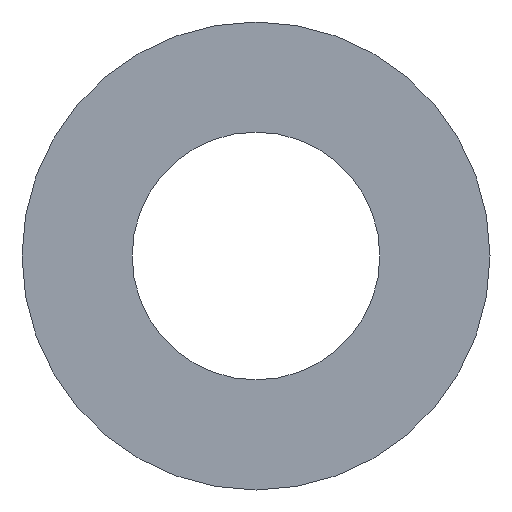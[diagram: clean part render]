
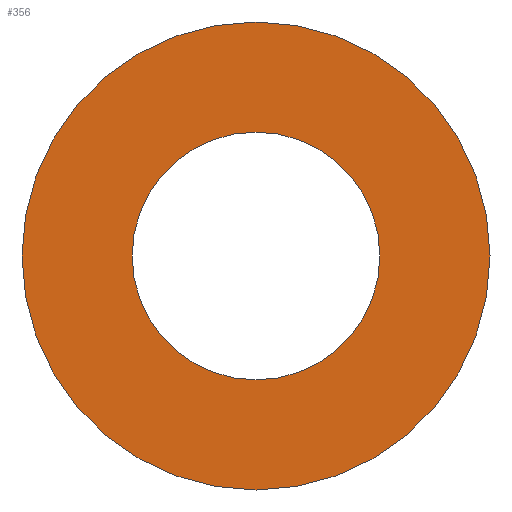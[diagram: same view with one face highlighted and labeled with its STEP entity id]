
A CAD part, front view. The second image highlights one B-rep face of the part: STEP entity #356.
In plain terms, the highlighted planar face has unit normal (0, -1, 0).
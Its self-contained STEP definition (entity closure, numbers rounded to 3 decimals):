
#22 = VERTEX_POINT('',#23);
#23 = CARTESIAN_POINT('',(0.,-0.5,1.35));
#32 = CYLINDRICAL_SURFACE('',#33,1.35);
#33 = AXIS2_PLACEMENT_3D('',#34,#35,#36);
#34 = CARTESIAN_POINT('',(0.,-0.6,0.));
#35 = DIRECTION('',(0.,1.,0.));
#36 = DIRECTION('',(0.,-0.,1.));
#44 = CYLINDRICAL_SURFACE('',#45,1.35);
#45 = AXIS2_PLACEMENT_3D('',#46,#47,#48);
#46 = CARTESIAN_POINT('',(0.,-0.6,0.));
#47 = DIRECTION('',(0.,1.,0.));
#48 = DIRECTION('',(0.,-0.,1.));
#90 = VERTEX_POINT('',#91);
#91 = CARTESIAN_POINT('',(0.,-0.5,-1.35));
#112 = EDGE_CURVE('',#90,#22,#113,.T.);
#113 = SURFACE_CURVE('',#114,(#119,#126),.PCURVE_S1.);
#114 = CIRCLE('',#115,1.35);
#115 = AXIS2_PLACEMENT_3D('',#116,#117,#118);
#116 = CARTESIAN_POINT('',(0.,-0.5,0.));
#117 = DIRECTION('',(0.,1.,0.));
#118 = DIRECTION('',(0.,-0.,1.));
#119 = PCURVE('',#32,#120);
#120 = DEFINITIONAL_REPRESENTATION('',(#121),#125);
#121 = LINE('',#122,#123);
#122 = CARTESIAN_POINT('',(0.,0.1));
#123 = VECTOR('',#124,1.);
#124 = DIRECTION('',(1.,0.));
#125 = ( GEOMETRIC_REPRESENTATION_CONTEXT(2) 
PARAMETRIC_REPRESENTATION_CONTEXT() REPRESENTATION_CONTEXT('2D SPACE',''
  ) );
#126 = PCURVE('',#127,#132);
#127 = PLANE('',#128);
#128 = AXIS2_PLACEMENT_3D('',#129,#130,#131);
#129 = CARTESIAN_POINT('',(0.,-0.5,0.));
#130 = DIRECTION('',(0.,1.,0.));
#131 = DIRECTION('',(0.,-0.,1.));
#132 = DEFINITIONAL_REPRESENTATION('',(#133),#137);
#133 = CIRCLE('',#134,1.35);
#134 = AXIS2_PLACEMENT_2D('',#135,#136);
#135 = CARTESIAN_POINT('',(0.,0.));
#136 = DIRECTION('',(1.,0.));
#137 = ( GEOMETRIC_REPRESENTATION_CONTEXT(2) 
PARAMETRIC_REPRESENTATION_CONTEXT() REPRESENTATION_CONTEXT('2D SPACE',''
  ) );
#142 = EDGE_CURVE('',#143,#145,#147,.T.);
#143 = VERTEX_POINT('',#144);
#144 = CARTESIAN_POINT('',(0.,-0.5,2.55));
#145 = VERTEX_POINT('',#146);
#146 = CARTESIAN_POINT('',(0.,-0.5,-2.55));
#147 = SURFACE_CURVE('',#148,(#153,#165),.PCURVE_S1.);
#148 = CIRCLE('',#149,2.55);
#149 = AXIS2_PLACEMENT_3D('',#150,#151,#152);
#150 = CARTESIAN_POINT('',(0.,-0.5,0.));
#151 = DIRECTION('',(0.,1.,0.));
#152 = DIRECTION('',(0.,-0.,1.));
#153 = PCURVE('',#154,#159);
#154 = CYLINDRICAL_SURFACE('',#155,2.55);
#155 = AXIS2_PLACEMENT_3D('',#156,#157,#158);
#156 = CARTESIAN_POINT('',(0.,-0.5,0.));
#157 = DIRECTION('',(0.,1.,0.));
#158 = DIRECTION('',(0.,-0.,1.));
#159 = DEFINITIONAL_REPRESENTATION('',(#160),#164);
#160 = LINE('',#161,#162);
#161 = CARTESIAN_POINT('',(0.,0.));
#162 = VECTOR('',#163,1.);
#163 = DIRECTION('',(1.,0.));
#164 = ( GEOMETRIC_REPRESENTATION_CONTEXT(2) 
PARAMETRIC_REPRESENTATION_CONTEXT() REPRESENTATION_CONTEXT('2D SPACE',''
  ) );
#165 = PCURVE('',#127,#166);
#166 = DEFINITIONAL_REPRESENTATION('',(#167),#171);
#167 = CIRCLE('',#168,2.55);
#168 = AXIS2_PLACEMENT_2D('',#169,#170);
#169 = CARTESIAN_POINT('',(0.,0.));
#170 = DIRECTION('',(1.,0.));
#171 = ( GEOMETRIC_REPRESENTATION_CONTEXT(2) 
PARAMETRIC_REPRESENTATION_CONTEXT() REPRESENTATION_CONTEXT('2D SPACE',''
  ) );
#189 = CYLINDRICAL_SURFACE('',#190,2.55);
#190 = AXIS2_PLACEMENT_3D('',#191,#192,#193);
#191 = CARTESIAN_POINT('',(0.,-0.5,0.));
#192 = DIRECTION('',(0.,1.,0.));
#193 = DIRECTION('',(0.,-0.,1.));
#306 = EDGE_CURVE('',#22,#90,#307,.T.);
#307 = SURFACE_CURVE('',#308,(#313,#320),.PCURVE_S1.);
#308 = CIRCLE('',#309,1.35);
#309 = AXIS2_PLACEMENT_3D('',#310,#311,#312);
#310 = CARTESIAN_POINT('',(0.,-0.5,0.));
#311 = DIRECTION('',(0.,1.,0.));
#312 = DIRECTION('',(0.,-0.,1.));
#313 = PCURVE('',#44,#314);
#314 = DEFINITIONAL_REPRESENTATION('',(#315),#319);
#315 = LINE('',#316,#317);
#316 = CARTESIAN_POINT('',(0.,0.1));
#317 = VECTOR('',#318,1.);
#318 = DIRECTION('',(1.,0.));
#319 = ( GEOMETRIC_REPRESENTATION_CONTEXT(2) 
PARAMETRIC_REPRESENTATION_CONTEXT() REPRESENTATION_CONTEXT('2D SPACE',''
  ) );
#320 = PCURVE('',#127,#321);
#321 = DEFINITIONAL_REPRESENTATION('',(#322),#326);
#322 = CIRCLE('',#323,1.35);
#323 = AXIS2_PLACEMENT_2D('',#324,#325);
#324 = CARTESIAN_POINT('',(0.,0.));
#325 = DIRECTION('',(1.,0.));
#326 = ( GEOMETRIC_REPRESENTATION_CONTEXT(2) 
PARAMETRIC_REPRESENTATION_CONTEXT() REPRESENTATION_CONTEXT('2D SPACE',''
  ) );
#333 = EDGE_CURVE('',#145,#143,#334,.T.);
#334 = SURFACE_CURVE('',#335,(#340,#347),.PCURVE_S1.);
#335 = CIRCLE('',#336,2.55);
#336 = AXIS2_PLACEMENT_3D('',#337,#338,#339);
#337 = CARTESIAN_POINT('',(0.,-0.5,0.));
#338 = DIRECTION('',(0.,1.,0.));
#339 = DIRECTION('',(0.,-0.,1.));
#340 = PCURVE('',#189,#341);
#341 = DEFINITIONAL_REPRESENTATION('',(#342),#346);
#342 = LINE('',#343,#344);
#343 = CARTESIAN_POINT('',(0.,0.));
#344 = VECTOR('',#345,1.);
#345 = DIRECTION('',(1.,0.));
#346 = ( GEOMETRIC_REPRESENTATION_CONTEXT(2) 
PARAMETRIC_REPRESENTATION_CONTEXT() REPRESENTATION_CONTEXT('2D SPACE',''
  ) );
#347 = PCURVE('',#127,#348);
#348 = DEFINITIONAL_REPRESENTATION('',(#349),#353);
#349 = CIRCLE('',#350,2.55);
#350 = AXIS2_PLACEMENT_2D('',#351,#352);
#351 = CARTESIAN_POINT('',(0.,0.));
#352 = DIRECTION('',(1.,0.));
#353 = ( GEOMETRIC_REPRESENTATION_CONTEXT(2) 
PARAMETRIC_REPRESENTATION_CONTEXT() REPRESENTATION_CONTEXT('2D SPACE',''
  ) );
#356 = ADVANCED_FACE('',(#357,#361),#127,.F.);
#357 = FACE_BOUND('',#358,.T.);
#358 = EDGE_LOOP('',(#359,#360));
#359 = ORIENTED_EDGE('',*,*,#306,.T.);
#360 = ORIENTED_EDGE('',*,*,#112,.T.);
#361 = FACE_BOUND('',#362,.T.);
#362 = EDGE_LOOP('',(#363,#364));
#363 = ORIENTED_EDGE('',*,*,#142,.F.);
#364 = ORIENTED_EDGE('',*,*,#333,.F.);
